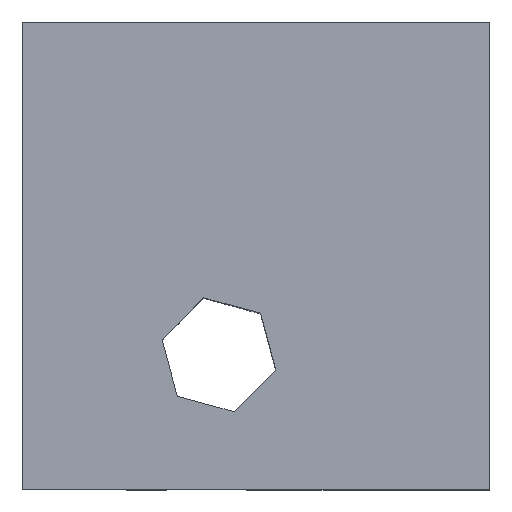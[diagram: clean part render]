
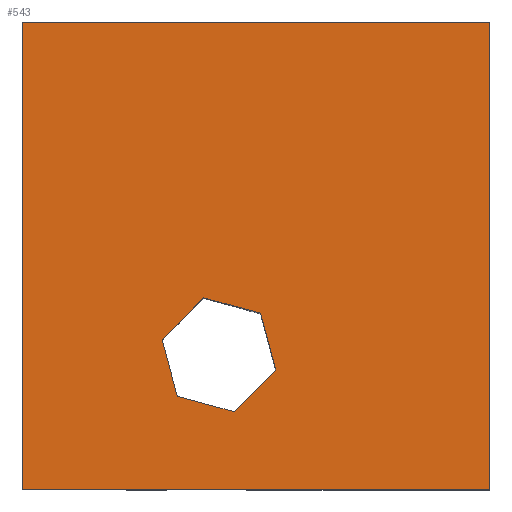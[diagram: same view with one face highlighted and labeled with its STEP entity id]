
A CAD part, top view. The second image highlights one B-rep face of the part: STEP entity #543.
In plain terms, the highlighted planar face has unit normal (0, 0, 1).
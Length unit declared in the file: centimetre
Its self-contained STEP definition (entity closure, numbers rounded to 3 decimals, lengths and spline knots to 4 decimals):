
#14 = LINE ( 'NONE', #576, #530 ) ;
#25 = ORIENTED_EDGE ( 'NONE', *, *, #627, .T. ) ;
#62 = DIRECTION ( 'NONE',  ( 0., -1., 0. ) ) ;
#74 = VERTEX_POINT ( 'NONE', #721 ) ;
#77 = VERTEX_POINT ( 'NONE', #655 ) ;
#81 = CARTESIAN_POINT ( 'NONE',  ( 0., 1000., 1000. ) ) ;
#124 = DIRECTION ( 'NONE',  ( 0., 0., 1. ) ) ;
#126 = VECTOR ( 'NONE', #62, 100. ) ;
#127 = ORIENTED_EDGE ( 'NONE', *, *, #845, .T. ) ;
#128 = EDGE_CURVE ( 'NONE', #723, #320, #768, .T. ) ;
#139 = CARTESIAN_POINT ( 'NONE',  ( 542.3774, 255.0843, 1000. ) ) ;
#142 = CARTESIAN_POINT ( 'NONE',  ( 0., 0., 1000. ) ) ;
#152 = VECTOR ( 'NONE', #420, 100. ) ;
#170 = LINE ( 'NONE', #587, #539 ) ;
#182 = EDGE_LOOP ( 'NONE', ( #666, #205, #698, #500 ) ) ;
#190 = CARTESIAN_POINT ( 'NONE',  ( 1000., 1000., 1000. ) ) ;
#199 = CARTESIAN_POINT ( 'NONE',  ( 1000., 0., 1000. ) ) ;
#205 = ORIENTED_EDGE ( 'NONE', *, *, #317, .T. ) ;
#219 = LINE ( 'NONE', #785, #611 ) ;
#249 = FACE_OUTER_BOUND ( 'NONE', #182, .T. ) ;
#262 = EDGE_CURVE ( 'NONE', #320, #461, #275, .T. ) ;
#275 = LINE ( 'NONE', #497, #864 ) ;
#285 = EDGE_LOOP ( 'NONE', ( #531, #127, #417, #25, #566, #841 ) ) ;
#293 = EDGE_CURVE ( 'NONE', #582, #74, #375, .T. ) ;
#297 = CARTESIAN_POINT ( 'NONE',  ( 0., 0., 1000. ) ) ;
#307 = VERTEX_POINT ( 'NONE', #297 ) ;
#309 = CARTESIAN_POINT ( 'NONE',  ( 0., 1000., 1000. ) ) ;
#313 = AXIS2_PLACEMENT_3D ( 'NONE', #809, #124, #740 ) ;
#317 = EDGE_CURVE ( 'NONE', #307, #596, #692, .T. ) ;
#320 = VERTEX_POINT ( 'NONE', #330 ) ;
#330 = CARTESIAN_POINT ( 'NONE',  ( 453.2597, 165.9666, 1000. ) ) ;
#332 = VECTOR ( 'NONE', #594, 100. ) ;
#340 = CARTESIAN_POINT ( 'NONE',  ( 388.057, 409.5755, 1000. ) ) ;
#352 = DIRECTION ( 'NONE',  ( 0.258, -0.966, 0. ) ) ;
#375 = LINE ( 'NONE', #309, #332 ) ;
#417 = ORIENTED_EDGE ( 'NONE', *, *, #777, .T. ) ;
#419 = DIRECTION ( 'NONE',  ( 1., 0., 0. ) ) ;
#420 = DIRECTION ( 'NONE',  ( -0.707, -0.707, 0. ) ) ;
#426 = CARTESIAN_POINT ( 'NONE',  ( 331.4913, 198.7025, 1000. ) ) ;
#433 = VECTOR ( 'NONE', #419, 100. ) ;
#460 = FACE_BOUND ( 'NONE', #285, .T. ) ;
#461 = VERTEX_POINT ( 'NONE', #744 ) ;
#497 = CARTESIAN_POINT ( 'NONE',  ( 453.2597, 165.9666, 1000. ) ) ;
#500 = ORIENTED_EDGE ( 'NONE', *, *, #293, .T. ) ;
#530 = VECTOR ( 'NONE', #694, 100. ) ;
#531 = ORIENTED_EDGE ( 'NONE', *, *, #709, .T. ) ;
#539 = VECTOR ( 'NONE', #788, 100. ) ;
#543 = ADVANCED_FACE ( 'NONE', ( #460, #249 ), #750, .T. ) ;
#564 = VERTEX_POINT ( 'NONE', #340 ) ;
#566 = ORIENTED_EDGE ( 'NONE', *, *, #128, .T. ) ;
#576 = CARTESIAN_POINT ( 'NONE',  ( 1000., 1000., 1000. ) ) ;
#577 = DIRECTION ( 'NONE',  ( -0.966, 0.26, 0. ) ) ;
#582 = VERTEX_POINT ( 'NONE', #190 ) ;
#587 = CARTESIAN_POINT ( 'NONE',  ( 298.9392, 320.4577, 1000. ) ) ;
#594 = DIRECTION ( 'NONE',  ( -1., 0., 0. ) ) ;
#596 = VERTEX_POINT ( 'NONE', #199 ) ;
#611 = VECTOR ( 'NONE', #352, 100. ) ;
#616 = EDGE_CURVE ( 'NONE', #596, #582, #14, .T. ) ;
#627 = EDGE_CURVE ( 'NONE', #77, #723, #219, .T. ) ;
#632 = CARTESIAN_POINT ( 'NONE',  ( 298.9392, 320.4577, 1000. ) ) ;
#654 = EDGE_CURVE ( 'NONE', #74, #307, #697, .T. ) ;
#655 = CARTESIAN_POINT ( 'NONE',  ( 509.8254, 376.8395, 1000. ) ) ;
#656 = LINE ( 'NONE', #662, #691 ) ;
#662 = CARTESIAN_POINT ( 'NONE',  ( 388.057, 409.5755, 1000. ) ) ;
#666 = ORIENTED_EDGE ( 'NONE', *, *, #654, .T. ) ;
#691 = VECTOR ( 'NONE', #867, 100. ) ;
#692 = LINE ( 'NONE', #142, #433 ) ;
#694 = DIRECTION ( 'NONE',  ( 0., 1., 0. ) ) ;
#697 = LINE ( 'NONE', #81, #126 ) ;
#698 = ORIENTED_EDGE ( 'NONE', *, *, #616, .T. ) ;
#701 = LINE ( 'NONE', #426, #891 ) ;
#704 = DIRECTION ( 'NONE',  ( -0.258, 0.966, 0. ) ) ;
#709 = EDGE_CURVE ( 'NONE', #461, #735, #701, .T. ) ;
#721 = CARTESIAN_POINT ( 'NONE',  ( 0., 1000., 1000. ) ) ;
#723 = VERTEX_POINT ( 'NONE', #139 ) ;
#735 = VERTEX_POINT ( 'NONE', #632 ) ;
#740 = DIRECTION ( 'NONE',  ( 1., 0., 0. ) ) ;
#744 = CARTESIAN_POINT ( 'NONE',  ( 331.4913, 198.7025, 1000. ) ) ;
#750 = PLANE ( 'NONE',  #313 ) ;
#768 = LINE ( 'NONE', #834, #152 ) ;
#777 = EDGE_CURVE ( 'NONE', #564, #77, #656, .T. ) ;
#785 = CARTESIAN_POINT ( 'NONE',  ( 509.8254, 376.8395, 1000. ) ) ;
#788 = DIRECTION ( 'NONE',  ( 0.707, 0.707, 0. ) ) ;
#809 = CARTESIAN_POINT ( 'NONE',  ( 0., 0., 1000. ) ) ;
#834 = CARTESIAN_POINT ( 'NONE',  ( 542.3774, 255.0843, 1000. ) ) ;
#841 = ORIENTED_EDGE ( 'NONE', *, *, #262, .T. ) ;
#845 = EDGE_CURVE ( 'NONE', #735, #564, #170, .T. ) ;
#864 = VECTOR ( 'NONE', #577, 100. ) ;
#867 = DIRECTION ( 'NONE',  ( 0.966, -0.26, 0. ) ) ;
#891 = VECTOR ( 'NONE', #704, 100. ) ;
